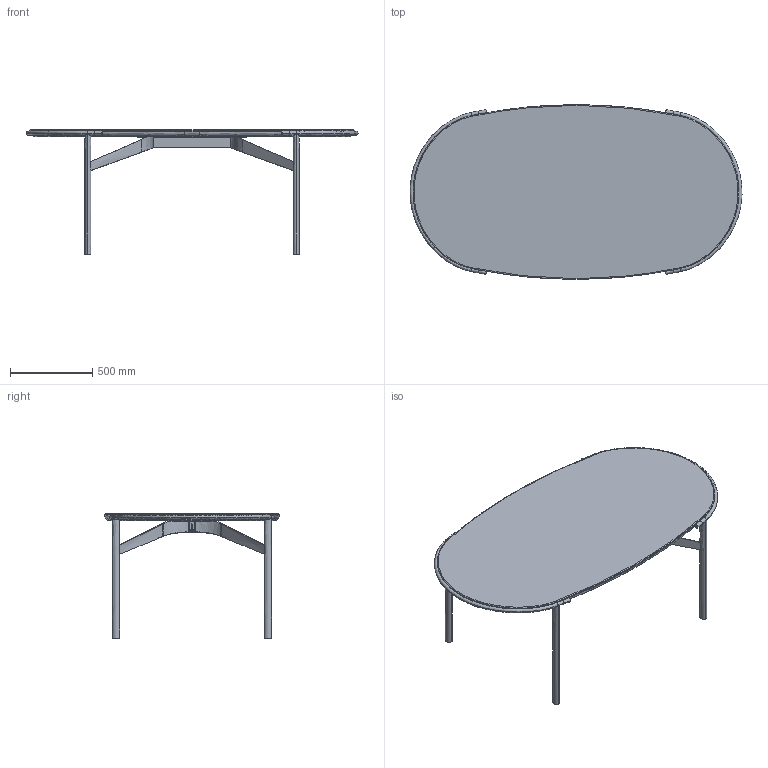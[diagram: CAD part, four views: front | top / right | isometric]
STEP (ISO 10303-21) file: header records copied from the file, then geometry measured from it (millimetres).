
FILE_DESCRIPTION(/* description */ (''),/* implementation_level */ '2;1');
FILE_NAME(/* name */ 'MML6RI~P',/* time_stamp */ '2024-07-04T11:21:24+02:00',/* author */ (''),/* organization */ (''),/* preprocessor_version */ 'ST-DEVELOPER v15',/* originating_system */ '',/* authorisation */ '');
FILE_SCHEMA (('AUTOMOTIVE_DESIGN'));
Length unit declared in the file: centimetre
Products named in the file (1): Document
Bounding box: 2018.1 x 1059.31 x 754.39 mm (x, y, z)
Volume: 11018816.4 mm3; surface area: 8534784.2 mm2
Topology: 14 solids, 17 shells, 294 faces, 838 edges, 566 vertices
Faces by surface type: bspline 294
Entity records: 25831 total; most frequent: CARTESIAN_POINT 20466, ORIENTED_EDGE 1640, EDGE_CURVE 838, B_SPLINE_CURVE_WITH_KNOTS 838, VERTEX_POINT 566, EDGE_LOOP 340, ADVANCED_FACE 294, FACE_OUTER_BOUND 294
